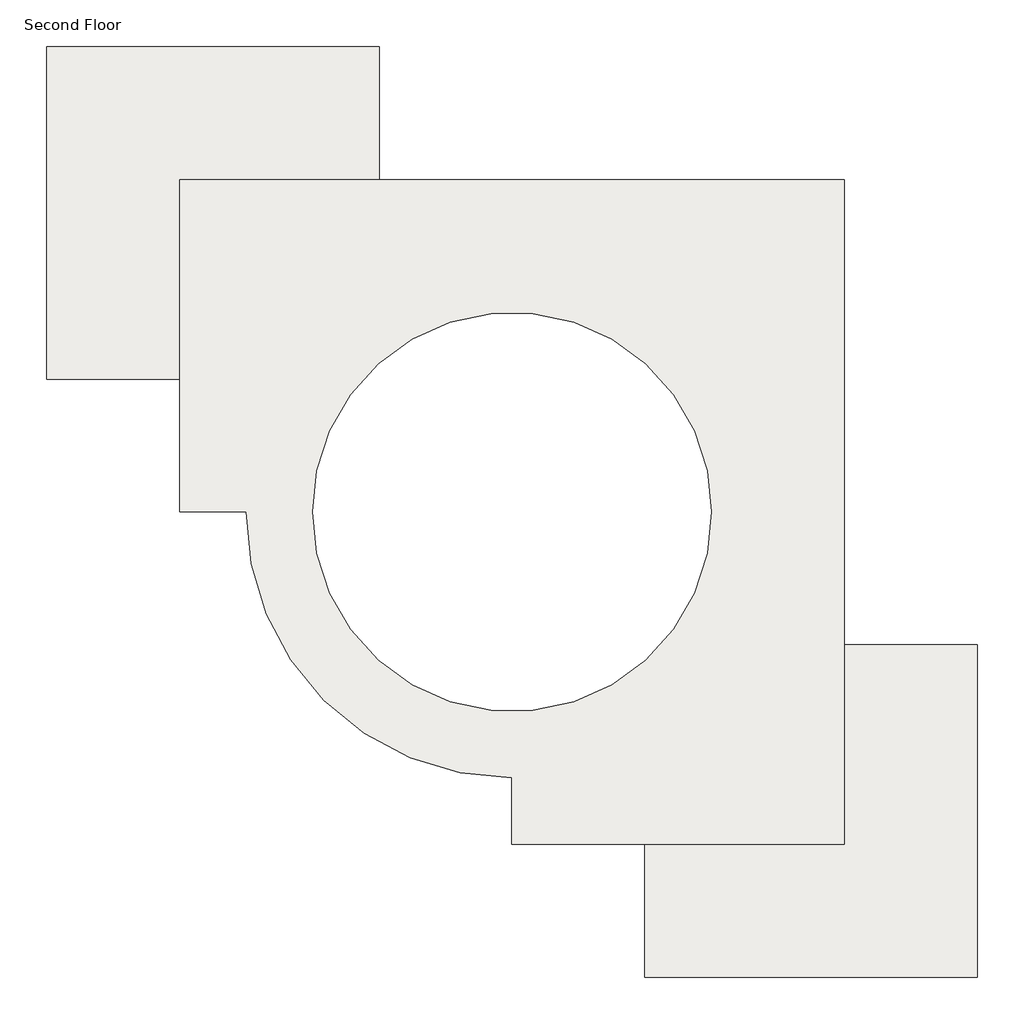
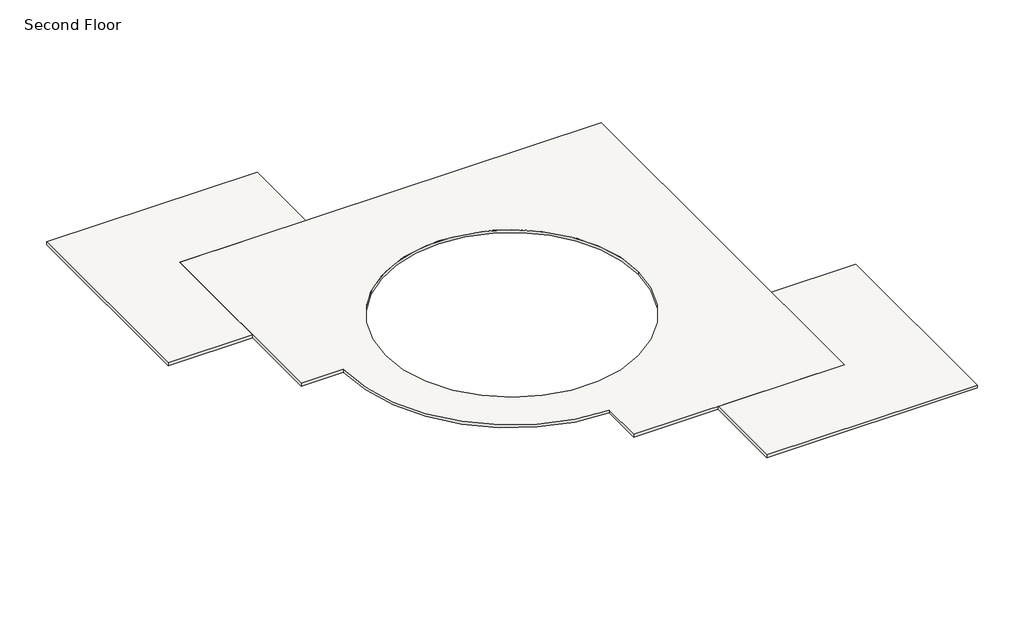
# One storey: 2 slabs.
"""IFC4 building model written with IfcOpenShell, lengths in millimetres."""

import ifcopenshell
import ifcopenshell.guid

model = None  # the IFC model being written
_history = None  # IfcOwnerHistory: only IFC2X3 demands one
_inside = {}  # id of a spatial element -> (the spatial element, [elements in it])
_under = {}  # id of a project, library or spatial element -> (it, [spatial elements below it])
_declared = {}  # id of a project -> (the project, [libraries it declares])
_typed = {}  # id of a type object -> (the type object, [elements of that type])
_made_of = {}  # id of a material, layer set ... -> (it, [elements and type objects made of it])


def new_model(schema):
    """Start an empty IFC model of exactly this schema.

    Asked for "IFC4X3", IfcOpenShell would pick the latest addendum, in which some entities
    have other attributes; the version numbers below select the first issue.
    IFC2X3 requires an IfcOwnerHistory on every rooted entity: one is made here for all.
    """
    global model, _history
    if schema == "IFC4X3":
        model = ifcopenshell.file(schema_version=(4, 3, 0, 0))
    else:
        model = ifcopenshell.file(schema=schema)
    _inside.clear()
    _under.clear()
    _declared.clear()
    _typed.clear()
    _made_of.clear()
    _history = None
    if model.schema == "IFC2X3":
        org = make("IfcOrganization", Name="unknown")
        user = make(
            "IfcPersonAndOrganization",
            ThePerson=make("IfcPerson", FamilyName="unknown"),
            TheOrganization=org,
        )
        app = make(
            "IfcApplication",
            ApplicationDeveloper=org,
            Version="unknown",
            ApplicationFullName="unknown",
            ApplicationIdentifier="unknown",
        )
        _history = make(
            "IfcOwnerHistory",
            OwningUser=user,
            OwningApplication=app,
            ChangeAction="ADDED",
            CreationDate=0,
        )
    return model


def make(cls, **values):
    """One entity of the class cls with the attributes given. An attribute that is None is left unset."""
    return model.create_entity(
        cls, **{name: value for name, value in values.items() if value is not None}
    )


def rooted(cls, **values):
    """An entity with a GlobalId (a new one), such as an element, a storey or a relation."""
    return make(cls, GlobalId=ifcopenshell.guid.new(), OwnerHistory=_history, **values)


def si_unit(unit_type, name, prefix=None):
    """IfcSIUnit, for example si_unit("LENGTHUNIT", "METRE", prefix="MILLI")."""
    return make("IfcSIUnit", UnitType=unit_type, Prefix=prefix, Name=name)


def assignment(units):
    """IfcUnitAssignment: the units of a project."""
    return None if units is None else make("IfcUnitAssignment", Units=units)


def point(xyz):
    """IfcCartesianPoint."""
    return None if xyz is None else make("IfcCartesianPoint", Coordinates=xyz)


def direction(xyz):
    """IfcDirection."""
    return None if xyz is None else make("IfcDirection", DirectionRatios=xyz)


def frame(location, z_axis=None, x_axis=None):
    """IfcAxis2Placement3D, a coordinate frame: its origin and axes. An axis left out is left unset."""
    return make(
        "IfcAxis2Placement3D",
        Location=point(location),
        Axis=direction(z_axis),
        RefDirection=direction(x_axis),
    )


def frame_2d(location, x_axis=None):
    """IfcAxis2Placement2D, a coordinate frame in the plane: its origin and x axis."""
    return make(
        "IfcAxis2Placement2D", Location=point(location), RefDirection=direction(x_axis)
    )


def origin():
    """The frame at (0, 0, 0) with its axes left unset."""
    return frame((0.0, 0.0, 0.0))


def place(relative_to, where):
    """IfcLocalPlacement: puts the frame where relative to a parent placement (None: the world)."""
    return make(
        "IfcLocalPlacement", PlacementRelTo=relative_to, RelativePlacement=where
    )


def context(
    kind, dimensions, precision=None, world=None, true_north=None, identifier=None
):
    """IfcGeometricRepresentationContext, for example the 3D "Model" context."""
    return make(
        "IfcGeometricRepresentationContext",
        ContextIdentifier=identifier,
        ContextType=kind,
        CoordinateSpaceDimension=dimensions,
        Precision=precision,
        WorldCoordinateSystem=world,
        TrueNorth=true_north,
    )


def project(units=None, contexts=None):
    """IfcProject with its units and contexts."""
    return rooted(
        "IfcProject",
        Name="project",
        RepresentationContexts=contexts,
        UnitsInContext=assignment(units),
    )


def spatial(cls, under=None, at=None, **own):
    """A site, building, storey or space (cls), placed at a placement, below another one or the project."""
    s = rooted(cls, ObjectPlacement=at, **own)
    if under is not None:
        _under.setdefault(under.id(), (under, []))[1].append(s)
    return s


def polyline(points):
    """IfcPolyline through the points."""
    return make("IfcPolyline", Points=[point(p) for p in points])


def circle_curve(where, radius):
    """IfcCircle in the frame where."""
    return make("IfcCircle", Position=where, Radius=radius)


def trimmed(basis, trim1, trim2, sense, master):
    """IfcTrimmedCurve: the piece of a basis curve between two trims."""
    return make(
        "IfcTrimmedCurve",
        BasisCurve=basis,
        Trim1=trim1,
        Trim2=trim2,
        SenseAgreement=sense,
        MasterRepresentation=master,
    )


def segment(curve, same_sense, transition):
    """IfcCompositeCurveSegment."""
    return make(
        "IfcCompositeCurveSegment",
        Transition=transition,
        SameSense=same_sense,
        ParentCurve=curve,
    )


def composite_curve(segments, self_intersect=None):
    """IfcCompositeCurve: segments joined end to end."""
    return make("IfcCompositeCurve", Segments=segments, SelfIntersect=self_intersect)


def outline(outer, holes=None, kind="AREA"):
    """IfcArbitraryClosedProfileDef: a profile drawn as a closed curve; with holes, ...WithVoids."""
    if holes is None:
        return make("IfcArbitraryClosedProfileDef", ProfileType=kind, OuterCurve=outer)
    return make(
        "IfcArbitraryProfileDefWithVoids",
        ProfileType=kind,
        OuterCurve=outer,
        InnerCurves=holes,
    )


def extrude(swept, where, along, depth):
    """IfcExtrudedAreaSolid: the profile swept, set in the frame where, extruded along a direction by depth."""
    return make(
        "IfcExtrudedAreaSolid",
        SweptArea=swept,
        Position=where,
        ExtrudedDirection=direction(along),
        Depth=depth,
    )


def shape(context_of_items, identifier, shape_type, items):
    """IfcShapeRepresentation: the items that make up one representation, for example the "Body"."""
    return make(
        "IfcShapeRepresentation",
        ContextOfItems=context_of_items,
        RepresentationIdentifier=identifier,
        RepresentationType=shape_type,
        Items=items,
    )


def made_of(thing, what):
    """Note that an element or type object is made of a material, layer set ...; save() writes the relation."""
    if what is not None:
        _made_of.setdefault(what.id(), (what, []))[1].append(thing)
    return thing


def element(
    cls,
    number,
    at=None,
    inside=None,
    cuts=None,
    type_object=None,
    material=None,
    context=None,
    identifier="Body",
    shape_type=None,
    held_by="IfcProductDefinitionShape",
    body=None,
    shapes=None,
    **own,
):
    """One element of the class cls, such as IfcWall. Its Tag is "e" and its number.

    at: its placement. inside: the storey or other place that contains it. cuts: it is an
    opening in that element (IfcRelVoidsElement). A single representation is given by context,
    identifier, shape_type and body (its items); several are given by shapes. held_by: the class
    of the entity that holds the representations. save() writes the other relations.
    """
    e = rooted(cls, Tag="e%d" % number, ObjectPlacement=at, **own)
    if body is not None:
        shapes = [shape(context, identifier, shape_type, body)]
    if shapes is not None:
        e.Representation = make(held_by, Representations=shapes)
    if inside is not None:
        _inside.setdefault(inside.id(), (inside, []))[1].append(e)
    if cuts is not None:
        rooted(
            "IfcRelVoidsElement", RelatingBuildingElement=cuts, RelatedOpeningElement=e
        )
    if type_object is not None:
        _typed.setdefault(type_object.id(), (type_object, []))[1].append(e)
    return made_of(e, material)


def aggregate(whole, parts):
    """IfcRelAggregates: a whole, such as a stair, and the parts it consists of."""
    return rooted("IfcRelAggregates", RelatingObject=whole, RelatedObjects=parts)


def save(model, path):
    """Write the relations noted so far, then the file.

    IfcRelAggregates (storeys below a building ...), IfcRelContainedInSpatialStructure (elements
    in a storey), IfcRelDefinesByType, IfcRelAssociatesMaterial and IfcRelDeclares: one each for
    every whole, place, type object, material and project.
    """
    for whole, parts in _under.values():
        aggregate(whole, parts)
    for where, things in _inside.values():
        rooted(
            "IfcRelContainedInSpatialStructure",
            RelatedElements=things,
            RelatingStructure=where,
        )
    for kind, things in _typed.values():
        rooted("IfcRelDefinesByType", RelatedObjects=things, RelatingType=kind)
    for what, things in _made_of.values():
        rooted("IfcRelAssociatesMaterial", RelatedObjects=things, RelatingMaterial=what)
    for by, libraries in _declared.values():
        rooted("IfcRelDeclares", RelatingContext=by, RelatedDefinitions=libraries)
    model.write(path)


model = new_model("IFC4")

# Units and contexts
model_context = context("Model", 3, world=origin())
ifc_project = project(units=[si_unit("LENGTHUNIT", "METRE", prefix="MILLI")], contexts=[model_context])

# Site, building, storey
site = spatial("IfcSite", under=ifc_project)
building = spatial("IfcBuilding", under=site)
storey = spatial("IfcBuildingStorey", under=building, Name="Second Floor", Elevation=3048.0)

# Slabs
placement = place(None, origin())
element("IfcSlab", 1, ObjectType="LW Concrete on Metal Deck", at=placement, inside=storey, context=model_context, shape_type="SweptSolid", body=[
    extrude(outline(composite_curve([segment(polyline([(3931.5112389, 11572.2454612), (3931.5112389, -3667.7545388), (-3688.4887611, -3667.7545388), (-3688.4887611, -2143.7545388)]), True, "CONTINUOUS"), segment(trimmed(circle_curve(frame_2d((-3688.4887611, 3952.2454612)), 6096.0), [point((-3688.4887611, -2143.7545388))], [point((-9784.4887611, 3952.2454612))], False, "CARTESIAN"), True, "CONTINUOUS"), segment(polyline([(-9784.4887611, 3952.2454612), (-11308.4887611, 3952.2454612), (-11308.4887611, 11572.2454612), (3931.5112389, 11572.2454612)]), True, "CONTINUOUS")], self_intersect=False), holes=[composite_curve([segment(trimmed(circle_curve(frame_2d((-3688.4887611, 3952.2454612)), 4572.0), [point((883.5112389, 3952.2454612))], [point((-8260.4887611, 3952.2454612))], True, "CARTESIAN"), True, "CONTINUOUS"), segment(trimmed(circle_curve(frame_2d((-3688.4887611, 3952.2454612)), 4572.0), [point((-8260.4887611, 3952.2454612))], [point((883.5112389, 3952.2454612))], True, "CARTESIAN"), True, "CONTINUOUS")], self_intersect=False)]), frame((0.0, 0.0, 2943.225), z_axis=(0.0, 0.0, 1.0), x_axis=(1.0, 0.0, 0.0)), (0.0, 0.0, 1.0), 104.775),
])
element("IfcSlab", 2, ObjectType="LW Concrete on Metal Deck", at=placement, inside=storey, context=model_context, shape_type="SweptSolid", body=[
    extrude(outline(polyline([(-6736.4887611, 14620.2454612), (-6736.4887611, 11572.2454612), (-11308.4887611, 11572.2454612), (-11308.4887611, 7000.2454612), (-14356.4887611, 7000.2454612), (-14356.4887611, 14620.2454612), (-6736.4887611, 14620.2454612)])), frame((0.0, 0.0, 2943.225), z_axis=(0.0, 0.0, 1.0), x_axis=(1.0, 0.0, 0.0)), (0.0, 0.0, 1.0), 104.775),
    extrude(outline(polyline([(6979.5112389, 904.2454612), (6979.5112389, -6715.7545388), (-640.4887611, -6715.7545388), (-640.4887611, -3667.7545388), (3931.5112389, -3667.7545388), (3931.5112389, 904.2454612), (6979.5112389, 904.2454612)])), frame((0.0, 0.0, 2943.225), z_axis=(0.0, 0.0, 1.0), x_axis=(1.0, 0.0, 0.0)), (0.0, 0.0, 1.0), 104.775),
])

save(model, "model.ifc")
